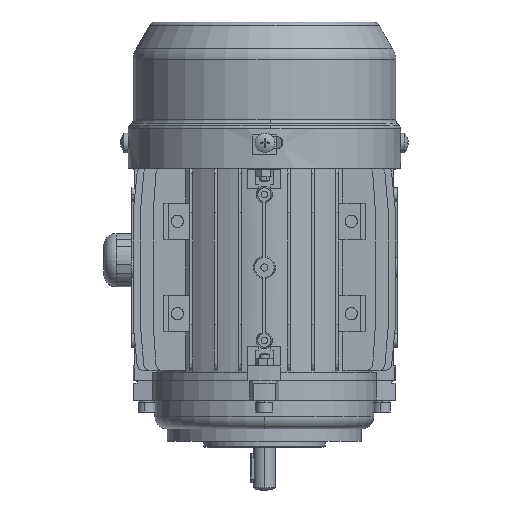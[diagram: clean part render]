
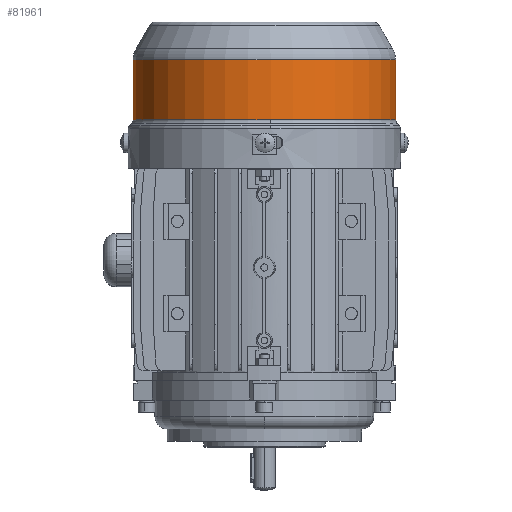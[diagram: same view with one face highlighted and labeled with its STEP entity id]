
A CAD part, front view. The second image highlights one B-rep face of the part: STEP entity #81961.
In plain terms, the highlighted cylindrical face has radius 54.05 mm (diameter 108.1 mm), a partial arc.
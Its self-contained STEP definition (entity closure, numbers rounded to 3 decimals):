
#1072 = EDGE_LOOP ( 'NONE', ( #83109, #54555, #69178, #76092, #59967 ) ) ;
#2620 = CARTESIAN_POINT ( 'NONE',  ( -56.138, -4.759, 134.523 ) ) ;
#4047 = DIRECTION ( 'NONE',  ( 0., 0., -1. ) ) ;
#7975 = DIRECTION ( 'NONE',  ( -0.999, -0.047, 0. ) ) ;
#11778 = AXIS2_PLACEMENT_3D ( 'NONE', #55697, #92277, #38932 ) ;
#12299 = VERTEX_POINT ( 'NONE', #73420 ) ;
#14945 = EDGE_CURVE ( 'NONE', #87696, #54445, #38256, .T. ) ;
#24601 = DIRECTION ( 'NONE',  ( 0., 0., 1. ) ) ;
#28772 = VERTEX_POINT ( 'NONE', #2620 ) ;
#29142 = CARTESIAN_POINT ( 'NONE',  ( 0.404, -56.196, 109.735 ) ) ;
#30754 = DIRECTION ( 'NONE',  ( 0., 0., 1. ) ) ;
#32694 = LINE ( 'NONE', #54963, #36918 ) ;
#33750 = CYLINDRICAL_SURFACE ( 'NONE', #70706, 54.05 ) ;
#36918 = VECTOR ( 'NONE', #60945, 1000. ) ;
#38256 = CIRCLE ( 'NONE', #84045, 54.05 ) ;
#38932 = DIRECTION ( 'NONE',  ( -0.999, -0.047, 0. ) ) ;
#47458 = DIRECTION ( 'NONE',  ( 0., 0., -1. ) ) ;
#52721 = EDGE_CURVE ( 'NONE', #28772, #12299, #92901, .T. ) ;
#54445 = VERTEX_POINT ( 'NONE', #70994 ) ;
#54478 = CIRCLE ( 'NONE', #11778, 54.05 ) ;
#54555 = ORIENTED_EDGE ( 'NONE', *, *, #88210, .T. ) ;
#54963 = CARTESIAN_POINT ( 'NONE',  ( 51.841, 0.346, 81.673 ) ) ;
#55697 = CARTESIAN_POINT ( 'NONE',  ( -2.149, -2.206, 134.523 ) ) ;
#58404 = CARTESIAN_POINT ( 'NONE',  ( 51.841, 0.346, 134.523 ) ) ;
#59967 = ORIENTED_EDGE ( 'NONE', *, *, #14945, .T. ) ;
#59974 = CARTESIAN_POINT ( 'NONE',  ( -2.149, -2.206, 109.735 ) ) ;
#60945 = DIRECTION ( 'NONE',  ( 0., 0., -1. ) ) ;
#69178 = ORIENTED_EDGE ( 'NONE', *, *, #52721, .T. ) ;
#70706 = AXIS2_PLACEMENT_3D ( 'NONE', #96013, #4047, #86660 ) ;
#70994 = CARTESIAN_POINT ( 'NONE',  ( 51.841, 0.346, 109.735 ) ) ;
#71106 = CARTESIAN_POINT ( 'NONE',  ( -56.138, -4.759, 81.673 ) ) ;
#72246 = EDGE_CURVE ( 'NONE', #12299, #87696, #73228, .T. ) ;
#72539 = EDGE_CURVE ( 'NONE', #85110, #54445, #32694, .T. ) ;
#73228 = CIRCLE ( 'NONE', #87443, 54.05 ) ;
#73420 = CARTESIAN_POINT ( 'NONE',  ( -56.138, -4.759, 109.735 ) ) ;
#76092 = ORIENTED_EDGE ( 'NONE', *, *, #72246, .T. ) ;
#77864 = VECTOR ( 'NONE', #47458, 1000. ) ;
#78701 = FACE_OUTER_BOUND ( 'NONE', #1072, .T. ) ;
#81961 = ADVANCED_FACE ( 'NONE', ( #78701 ), #33750, .T. ) ;
#83109 = ORIENTED_EDGE ( 'NONE', *, *, #72539, .F. ) ;
#84045 = AXIS2_PLACEMENT_3D ( 'NONE', #91869, #24601, #85921 ) ;
#85110 = VERTEX_POINT ( 'NONE', #58404 ) ;
#85921 = DIRECTION ( 'NONE',  ( -0.999, -0.047, 0. ) ) ;
#86660 = DIRECTION ( 'NONE',  ( -0.999, -0.047, 0. ) ) ;
#87443 = AXIS2_PLACEMENT_3D ( 'NONE', #59974, #30754, #7975 ) ;
#87696 = VERTEX_POINT ( 'NONE', #29142 ) ;
#88210 = EDGE_CURVE ( 'NONE', #85110, #28772, #54478, .T. ) ;
#91869 = CARTESIAN_POINT ( 'NONE',  ( -2.149, -2.206, 109.735 ) ) ;
#92277 = DIRECTION ( 'NONE',  ( 0., 0., -1. ) ) ;
#92901 = LINE ( 'NONE', #71106, #77864 ) ;
#96013 = CARTESIAN_POINT ( 'NONE',  ( -2.149, -2.206, 81.673 ) ) ;
